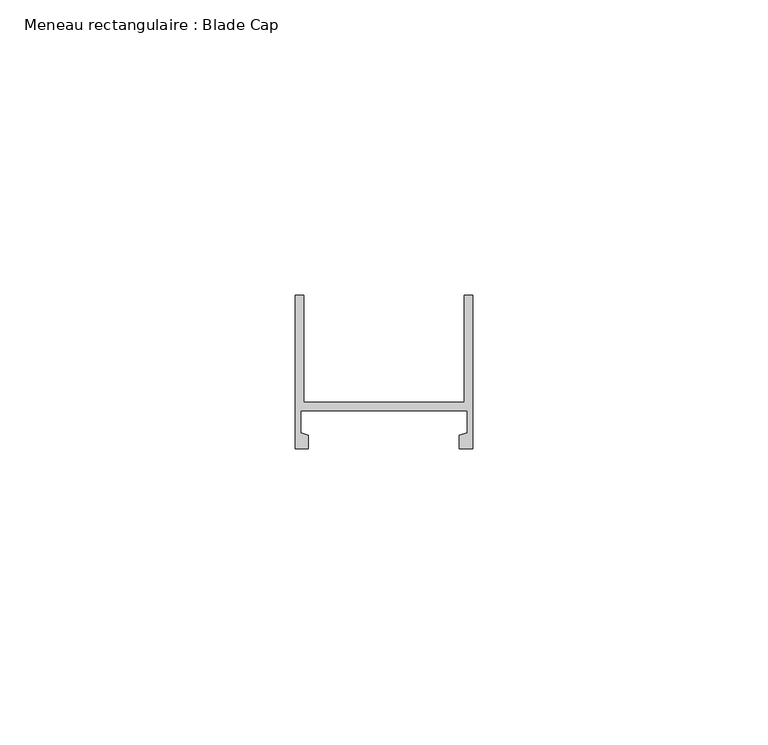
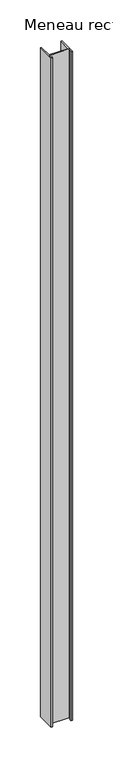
"""IFC4 building model written with IfcOpenShell, lengths in millimetres: member geometry, Meneau rectangulaire : Blade Cap."""

from ifc_helpers import new_model, si_unit, frame, origin, place, context, project, spatial, polyline, outline, extrude, source, transform, mapped, element, save


def meneau_rectangulaire_blade_cap_367a593c(model_context):
    return source(origin(), model_context, "Body", "SweptSolid", [
        extrude(outline(polyline([(30.0, 31.9289818), (30.0, 6.0), (27.7752828, 6.0), (27.7752828, 8.2419727), (29.0816796, 8.6617834), (29.0816796, 12.4079436), (0.9183204, 12.4079436), (0.9183204, 8.6374539), (2.149007, 8.2419727), (2.149007, 6.0), (0.0, 6.0), (0.0, 31.9289818), (1.4, 31.9289818), (1.4, 13.8079436), (28.6, 13.8079436), (28.6, 31.9289818), (30.0, 31.9289818)])), frame((0.0, 0.0, -1000.0), z_axis=(0.0, 0.0, 1.0), x_axis=(1.0, 0.0, 0.0)), (0.0, 0.0, 1.0), 1000.0),
    ])


if __name__ == "__main__":
    model = new_model("IFC4")
    model_context = context("Model", 3, world=origin())
    ifc_project = project(units=[si_unit("LENGTHUNIT", "METRE", prefix="MILLI")], contexts=[model_context])
    site = spatial("IfcSite", under=ifc_project)
    building = spatial("IfcBuilding", under=site)
    placement = place(None, origin())
    meneau_rectangulaire_blade_cap_shape = meneau_rectangulaire_blade_cap_367a593c(model_context)
    element("IfcMember", 1, ObjectType="Meneau rectangulaire : Blade Cap", at=placement, inside=building, context=model_context, shape_type="MappedRepresentation", body=[
        mapped(meneau_rectangulaire_blade_cap_shape, transform((0.0, 0.0, 0.0), x_axis=(1.0, 0.0, 0.0), y_axis=(0.0, 1.0, 0.0), z_axis=(0.0, 0.0, 1.0))),
    ])
    save(model, "model.ifc")
